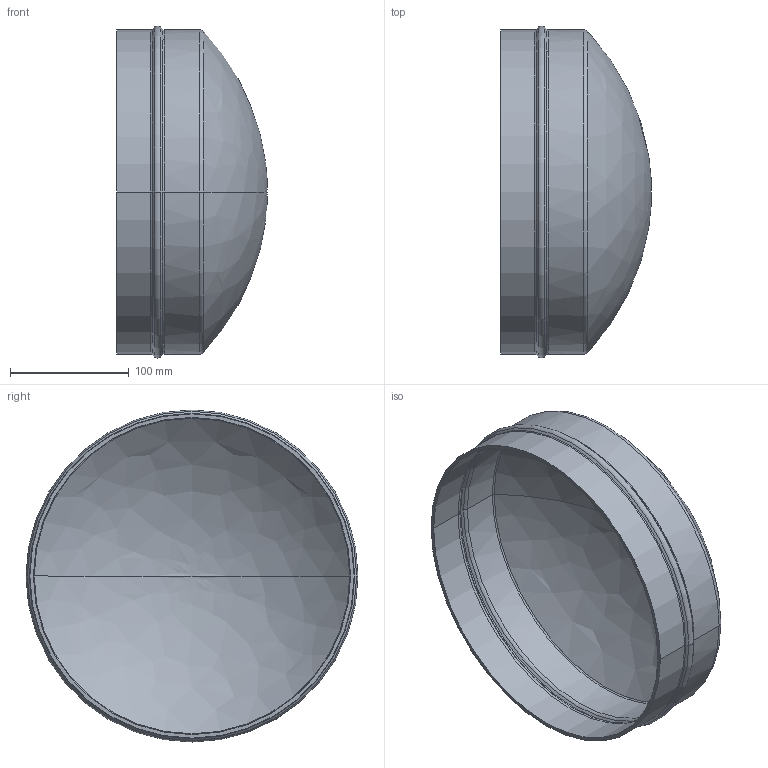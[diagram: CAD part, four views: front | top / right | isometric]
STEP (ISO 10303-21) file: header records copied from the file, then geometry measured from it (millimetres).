
FILE_DESCRIPTION(/* description */ (''),/* implementation_level */ '2;1');
FILE_NAME(/* name */ 'M006_stp.stp',/* time_stamp */ '2025-06-20T11:48:19+08:00',/* author */ (''),/* organization */ (''),/* preprocessor_version */ 'ST-DEVELOPER v14',/* originating_system */ 'SIEMENS PLM Software NX 8.0',/* authorisation */ '');
FILE_SCHEMA (('AP203_CONFIGURATION_CONTROLLED_3D_DESIGN_OF_MECHANICAL_PARTS_AND_ASSEMBLIES_MIM_LF { 1 0 10303 403 2 1 2}'));
Length unit declared in the file: millimetre
Products named in the file (1): Admi0BECFFFE4xvw
Bounding box: 127.12 x 279.56 x 279.56 mm (x, y, z)
Volume: 386990.4 mm3; surface area: 260565 mm2
Topology: 1 solids, 1 shells, 37 faces, 76 edges, 38 vertices
Faces by surface type: torus 16, cylinder 8, cone 8, bspline 4, plane 1
Entity records: 1134 total; most frequent: CARTESIAN_POINT 276, DIRECTION 188, ORIENTED_EDGE 144, AXIS2_PLACEMENT_3D 86, EDGE_CURVE 72, CIRCLE 52, EDGE_LOOP 38, VERTEX_POINT 38
